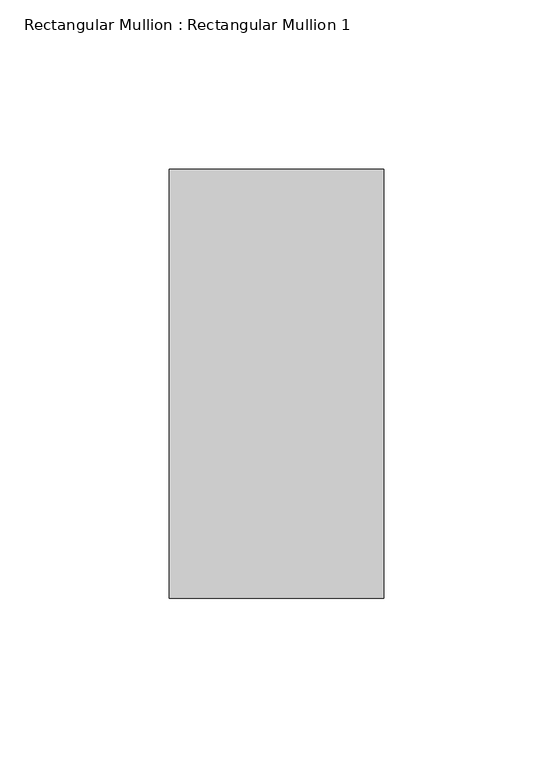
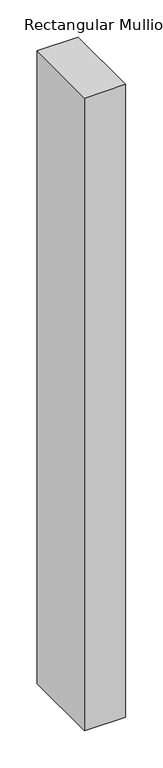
"""IFC4 building model written with IfcOpenShell, lengths in millimetres: member geometry, Rectangular Mullion : Rectangular Mullion 1."""

import ifcopenshell
import ifcopenshell.guid

model = None  # the IFC model being written
_history = None  # IfcOwnerHistory: only IFC2X3 demands one
_inside = {}  # id of a spatial element -> (the spatial element, [elements in it])
_under = {}  # id of a project, library or spatial element -> (it, [spatial elements below it])
_declared = {}  # id of a project -> (the project, [libraries it declares])
_typed = {}  # id of a type object -> (the type object, [elements of that type])
_made_of = {}  # id of a material, layer set ... -> (it, [elements and type objects made of it])


def new_model(schema):
    """Start an empty IFC model of exactly this schema.

    Asked for "IFC4X3", IfcOpenShell would pick the latest addendum, in which some entities
    have other attributes; the version numbers below select the first issue.
    IFC2X3 requires an IfcOwnerHistory on every rooted entity: one is made here for all.
    """
    global model, _history
    if schema == "IFC4X3":
        model = ifcopenshell.file(schema_version=(4, 3, 0, 0))
    else:
        model = ifcopenshell.file(schema=schema)
    _inside.clear()
    _under.clear()
    _declared.clear()
    _typed.clear()
    _made_of.clear()
    _history = None
    if model.schema == "IFC2X3":
        org = make("IfcOrganization", Name="unknown")
        user = make(
            "IfcPersonAndOrganization",
            ThePerson=make("IfcPerson", FamilyName="unknown"),
            TheOrganization=org,
        )
        app = make(
            "IfcApplication",
            ApplicationDeveloper=org,
            Version="unknown",
            ApplicationFullName="unknown",
            ApplicationIdentifier="unknown",
        )
        _history = make(
            "IfcOwnerHistory",
            OwningUser=user,
            OwningApplication=app,
            ChangeAction="ADDED",
            CreationDate=0,
        )
    return model


def make(cls, **values):
    """One entity of the class cls with the attributes given. An attribute that is None is left unset."""
    return model.create_entity(
        cls, **{name: value for name, value in values.items() if value is not None}
    )


def rooted(cls, **values):
    """An entity with a GlobalId (a new one), such as an element, a storey or a relation."""
    return make(cls, GlobalId=ifcopenshell.guid.new(), OwnerHistory=_history, **values)


def si_unit(unit_type, name, prefix=None):
    """IfcSIUnit, for example si_unit("LENGTHUNIT", "METRE", prefix="MILLI")."""
    return make("IfcSIUnit", UnitType=unit_type, Prefix=prefix, Name=name)


def assignment(units):
    """IfcUnitAssignment: the units of a project."""
    return None if units is None else make("IfcUnitAssignment", Units=units)


def point(xyz):
    """IfcCartesianPoint."""
    return None if xyz is None else make("IfcCartesianPoint", Coordinates=xyz)


def direction(xyz):
    """IfcDirection."""
    return None if xyz is None else make("IfcDirection", DirectionRatios=xyz)


def frame(location, z_axis=None, x_axis=None):
    """IfcAxis2Placement3D, a coordinate frame: its origin and axes. An axis left out is left unset."""
    return make(
        "IfcAxis2Placement3D",
        Location=point(location),
        Axis=direction(z_axis),
        RefDirection=direction(x_axis),
    )


def origin():
    """The frame at (0, 0, 0) with its axes left unset."""
    return frame((0.0, 0.0, 0.0))


def place(relative_to, where):
    """IfcLocalPlacement: puts the frame where relative to a parent placement (None: the world)."""
    return make(
        "IfcLocalPlacement", PlacementRelTo=relative_to, RelativePlacement=where
    )


def context(
    kind, dimensions, precision=None, world=None, true_north=None, identifier=None
):
    """IfcGeometricRepresentationContext, for example the 3D "Model" context."""
    return make(
        "IfcGeometricRepresentationContext",
        ContextIdentifier=identifier,
        ContextType=kind,
        CoordinateSpaceDimension=dimensions,
        Precision=precision,
        WorldCoordinateSystem=world,
        TrueNorth=true_north,
    )


def project(units=None, contexts=None):
    """IfcProject with its units and contexts."""
    return rooted(
        "IfcProject",
        Name="project",
        RepresentationContexts=contexts,
        UnitsInContext=assignment(units),
    )


def spatial(cls, under=None, at=None, **own):
    """A site, building, storey or space (cls), placed at a placement, below another one or the project."""
    s = rooted(cls, ObjectPlacement=at, **own)
    if under is not None:
        _under.setdefault(under.id(), (under, []))[1].append(s)
    return s


def polyline(points):
    """IfcPolyline through the points."""
    return make("IfcPolyline", Points=[point(p) for p in points])


def outline(outer, holes=None, kind="AREA"):
    """IfcArbitraryClosedProfileDef: a profile drawn as a closed curve; with holes, ...WithVoids."""
    if holes is None:
        return make("IfcArbitraryClosedProfileDef", ProfileType=kind, OuterCurve=outer)
    return make(
        "IfcArbitraryProfileDefWithVoids",
        ProfileType=kind,
        OuterCurve=outer,
        InnerCurves=holes,
    )


def extrude(swept, where, along, depth):
    """IfcExtrudedAreaSolid: the profile swept, set in the frame where, extruded along a direction by depth."""
    return make(
        "IfcExtrudedAreaSolid",
        SweptArea=swept,
        Position=where,
        ExtrudedDirection=direction(along),
        Depth=depth,
    )


def shape(context_of_items, identifier, shape_type, items):
    """IfcShapeRepresentation: the items that make up one representation, for example the "Body"."""
    return make(
        "IfcShapeRepresentation",
        ContextOfItems=context_of_items,
        RepresentationIdentifier=identifier,
        RepresentationType=shape_type,
        Items=items,
    )


def source(mapping_origin, context_of_items, identifier, shape_type, items):
    """IfcRepresentationMap: a shape defined once, which mapped items show again and again."""
    return make(
        "IfcRepresentationMap",
        MappingOrigin=mapping_origin,
        MappedRepresentation=shape(context_of_items, identifier, shape_type, items),
    )


def transform(
    local_origin,
    x_axis=None,
    y_axis=None,
    z_axis=None,
    scale=None,
    scale2=None,
    scale3=None,
    uniform=True,
):
    """IfcCartesianTransformationOperator3D, or its non-uniform kind. x_axis, y_axis, z_axis: its Axis1, 2, 3."""
    if uniform:
        return make(
            "IfcCartesianTransformationOperator3D",
            Axis1=direction(x_axis),
            Axis2=direction(y_axis),
            LocalOrigin=point(local_origin),
            Scale=scale,
            Axis3=direction(z_axis),
        )
    return make(
        "IfcCartesianTransformationOperator3DnonUniform",
        Axis1=direction(x_axis),
        Axis2=direction(y_axis),
        LocalOrigin=point(local_origin),
        Scale=scale,
        Axis3=direction(z_axis),
        Scale2=scale2,
        Scale3=scale3,
    )


def mapped(mapping_source, mapping_target):
    """IfcMappedItem: shows the shape of a source again, moved by a transform."""
    return make(
        "IfcMappedItem", MappingSource=mapping_source, MappingTarget=mapping_target
    )


def made_of(thing, what):
    """Note that an element or type object is made of a material, layer set ...; save() writes the relation."""
    if what is not None:
        _made_of.setdefault(what.id(), (what, []))[1].append(thing)
    return thing


def element(
    cls,
    number,
    at=None,
    inside=None,
    cuts=None,
    type_object=None,
    material=None,
    context=None,
    identifier="Body",
    shape_type=None,
    held_by="IfcProductDefinitionShape",
    body=None,
    shapes=None,
    **own,
):
    """One element of the class cls, such as IfcWall. Its Tag is "e" and its number.

    at: its placement. inside: the storey or other place that contains it. cuts: it is an
    opening in that element (IfcRelVoidsElement). A single representation is given by context,
    identifier, shape_type and body (its items); several are given by shapes. held_by: the class
    of the entity that holds the representations. save() writes the other relations.
    """
    e = rooted(cls, Tag="e%d" % number, ObjectPlacement=at, **own)
    if body is not None:
        shapes = [shape(context, identifier, shape_type, body)]
    if shapes is not None:
        e.Representation = make(held_by, Representations=shapes)
    if inside is not None:
        _inside.setdefault(inside.id(), (inside, []))[1].append(e)
    if cuts is not None:
        rooted(
            "IfcRelVoidsElement", RelatingBuildingElement=cuts, RelatedOpeningElement=e
        )
    if type_object is not None:
        _typed.setdefault(type_object.id(), (type_object, []))[1].append(e)
    return made_of(e, material)


def aggregate(whole, parts):
    """IfcRelAggregates: a whole, such as a stair, and the parts it consists of."""
    return rooted("IfcRelAggregates", RelatingObject=whole, RelatedObjects=parts)


def save(model, path):
    """Write the relations noted so far, then the file.

    IfcRelAggregates (storeys below a building ...), IfcRelContainedInSpatialStructure (elements
    in a storey), IfcRelDefinesByType, IfcRelAssociatesMaterial and IfcRelDeclares: one each for
    every whole, place, type object, material and project.
    """
    for whole, parts in _under.values():
        aggregate(whole, parts)
    for where, things in _inside.values():
        rooted(
            "IfcRelContainedInSpatialStructure",
            RelatedElements=things,
            RelatingStructure=where,
        )
    for kind, things in _typed.values():
        rooted("IfcRelDefinesByType", RelatedObjects=things, RelatingType=kind)
    for what, things in _made_of.values():
        rooted("IfcRelAssociatesMaterial", RelatedObjects=things, RelatingMaterial=what)
    for by, libraries in _declared.values():
        rooted("IfcRelDeclares", RelatingContext=by, RelatedDefinitions=libraries)
    model.write(path)


def rectangular_mullion_rectangular_mullion_1_d58eba0a(model_context):
    return source(origin(), model_context, "Body", "SweptSolid", [
        extrude(outline(polyline([(0.0, 63.5), (0.0, -63.5), (-63.5, -63.5), (-63.5, 63.5), (0.0, 63.5)])), frame((0.0, 0.0, -1034.142857), z_axis=(0.0, 0.0, 1.0), x_axis=(1.0, 0.0, 0.0)), (0.0, 0.0, 1.0), 1034.142857),
    ])


if __name__ == "__main__":
    model = new_model("IFC4")
    model_context = context("Model", 3, world=origin())
    ifc_project = project(units=[si_unit("LENGTHUNIT", "METRE", prefix="MILLI")], contexts=[model_context])
    site = spatial("IfcSite", under=ifc_project)
    building = spatial("IfcBuilding", under=site)
    placement = place(None, origin())
    rectangular_mullion_rectangular_mullion_1_shape = rectangular_mullion_rectangular_mullion_1_d58eba0a(model_context)
    element("IfcMember", 1, ObjectType="Rectangular Mullion : Rectangular Mullion 1", at=placement, inside=building, context=model_context, shape_type="MappedRepresentation", body=[
        mapped(rectangular_mullion_rectangular_mullion_1_shape, transform((0.0, 0.0, 0.0), x_axis=(1.0, 0.0, 0.0), y_axis=(0.0, 1.0, 0.0), z_axis=(0.0, 0.0, 1.0))),
    ])
    save(model, "model.ifc")
